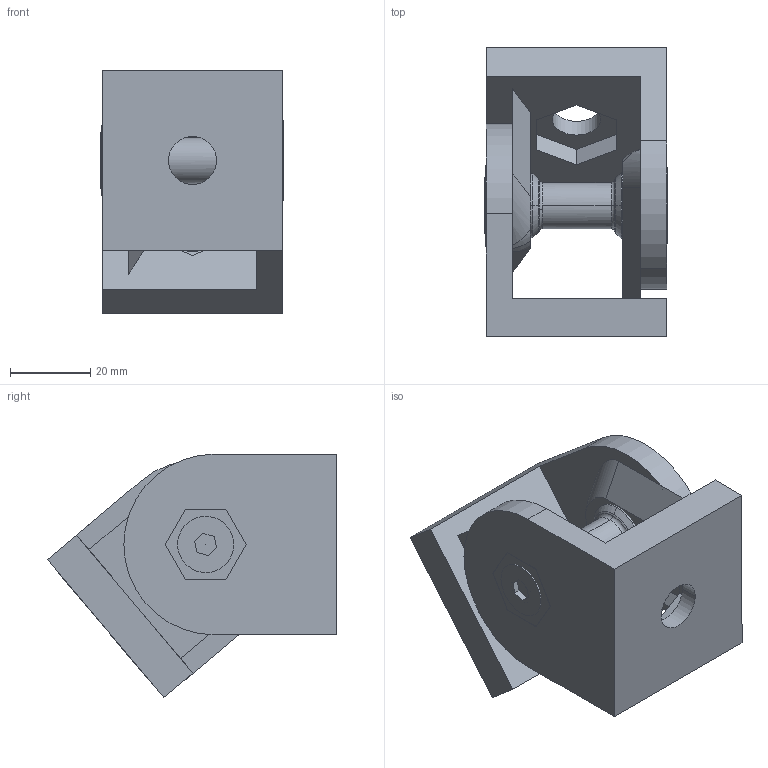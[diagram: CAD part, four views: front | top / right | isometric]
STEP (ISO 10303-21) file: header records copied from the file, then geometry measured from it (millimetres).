
FILE_DESCRIPTION (( 'STEP AP203' ), '1' );
FILE_NAME ('2051.STEP', '2016-07-26T10:03:21', ( 'RosInstal-MKM' ), ( '' ), 'SwSTEP 2.0', 'SolidWorks 2014', '' );
FILE_SCHEMA (( 'CONFIG_CONTROL_DESIGN' ));
Length unit declared in the file: millimetre
Products named in the file (4): 搿錓1; 闃膼瘔1; 2051; 碞鵻罻1
Assembly tree (4 placements, depth 2):
  2051
    闃膼瘔1  x2
    碞鵻罻1
    搿錓1
Bounding box: 45.47 x 72.03 x 60.72 mm (x, y, z)
Volume: 68283.9 mm3; surface area: 28397 mm2
Topology: 4 solids, 4 shells, 117 faces, 289 edges, 188 vertices
Faces by surface type: plane 64, cylinder 35, cone 6, sphere 4, bspline 4, torus 4
Entity records: 3537 total; most frequent: CARTESIAN_POINT 1199, DIRECTION 410, ORIENTED_EDGE 386, EDGE_CURVE 193, AXIS2_PLACEMENT_3D 150, VERTEX_POINT 124, VECTOR 110, LINE 110
